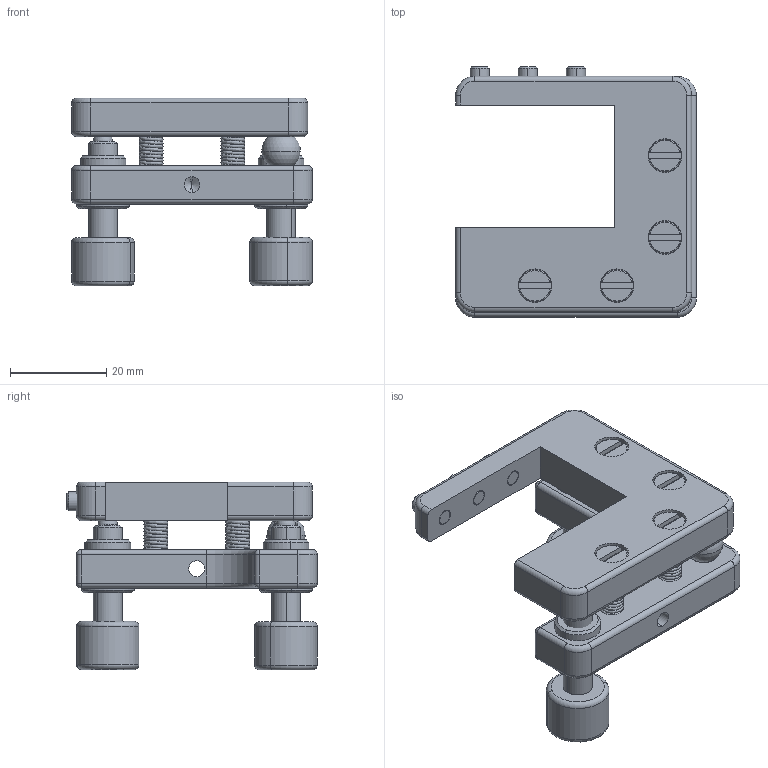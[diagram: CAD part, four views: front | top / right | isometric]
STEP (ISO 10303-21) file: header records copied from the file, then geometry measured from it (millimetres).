
FILE_DESCRIPTION (( 'STEP AP203' ), '1' );
FILE_NAME ('7MMC3254褫覃翐醱噩殤.STEP', '2020-03-31T02:28:42', ( '' ), ( '' ), 'SwSTEP 2.0', 'SolidWorks 2018', '' );
FILE_SCHEMA (( 'CONFIG_CONTROL_DESIGN' ));
Length unit declared in the file: millimetre
Products named in the file (1): 7MMC3254褫覃翐醱噩殤
Bounding box: 50 x 52 x 39 mm (x, y, z)
Volume: 24903.3 mm3; surface area: 18213.9 mm2
Topology: 31 solids, 31 shells, 492 faces, 1099 edges, 674 vertices
Faces by surface type: plane 178, cylinder 162, cone 74, torus 56, sphere 14, bspline 8
Entity records: 24091 total; most frequent: CARTESIAN_POINT 13063, DIRECTION 2490, ORIENTED_EDGE 2100, EDGE_CURVE 1050, AXIS2_PLACEMENT_3D 1048, VERTEX_POINT 661, EDGE_LOOP 565, CIRCLE 563
